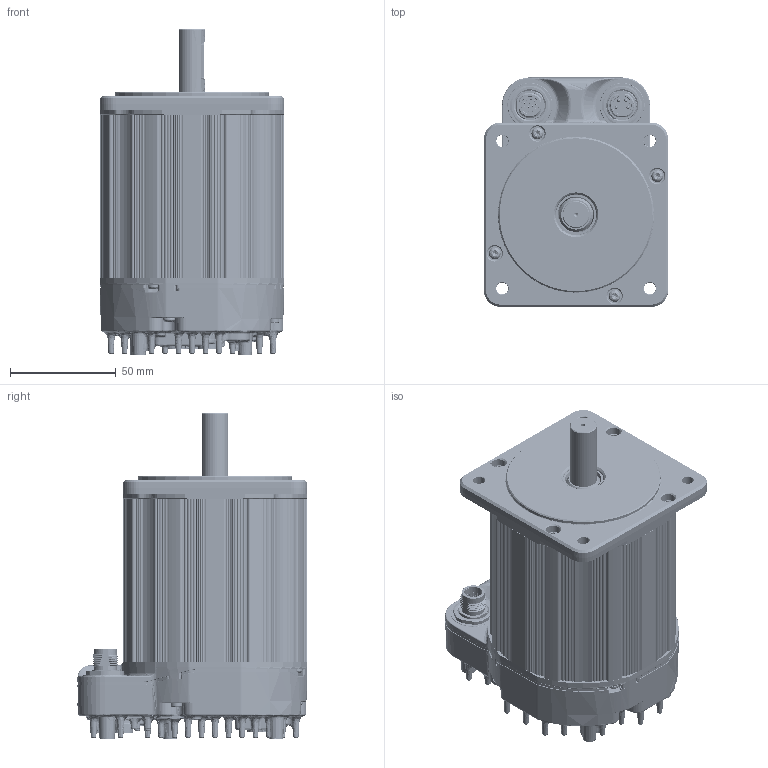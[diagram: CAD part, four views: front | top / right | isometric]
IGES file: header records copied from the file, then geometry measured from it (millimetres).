
Start section: SolidWorks IGES file using analytic representation for surfaces
Global section: file name: C:\TeknicPDM\EtherPath CPM-S\EtherPath CPM-S Customer Files\EC Customer Models\343x EC.IGS; native system: SolidWorks 2020; preprocessor: SolidWorks 2020; author: mike_berezny; date: 231213.181102; units: inch
Bounding box: 86.87 x 108.59 x 153.98 mm (x, y, z)
Surface area: 188960.5 mm2 (no closed solid volume)
Topology: 0 solids, 0 shells, 10991 faces, 113070 edges, 112443 vertices
Faces by surface type: bspline 5527, revolution 5464
